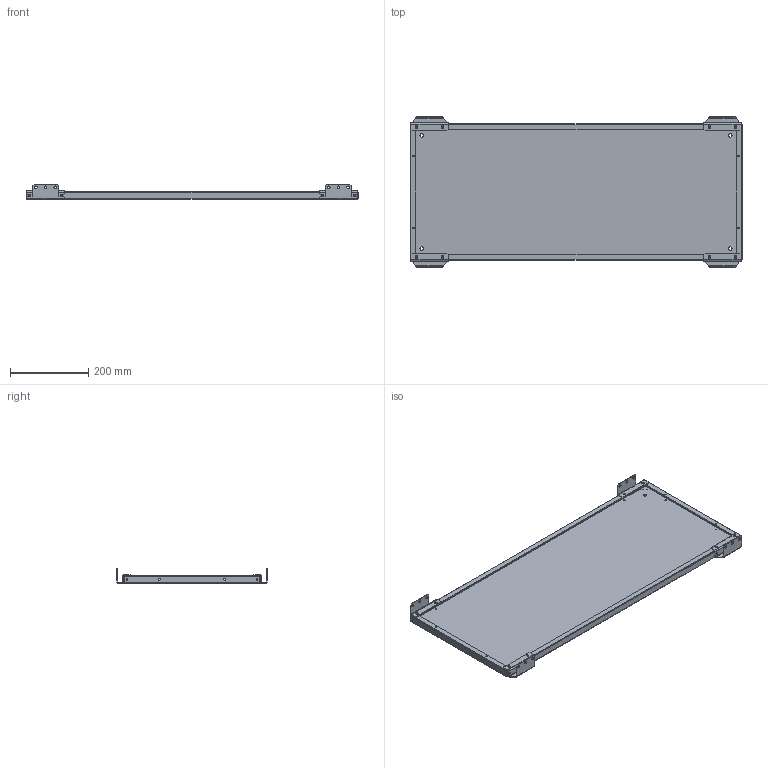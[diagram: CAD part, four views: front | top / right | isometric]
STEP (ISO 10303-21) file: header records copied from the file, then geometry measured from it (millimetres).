
FILE_DESCRIPTION (( 'STEP AP203' ), '1' );
FILE_NAME ('MP 85.35 M Ïàíåëü ìîíòàæíàÿ ñåêöèîííàÿ (ãîðèçîíòàëüíîå êðåïëåíèå).STEP', '2021-04-06T07:12:43', ( '' ), ( '' ), 'SwSTEP 2.0', 'SolidWorks 2018', '' );
FILE_SCHEMA (( 'CONFIG_CONTROL_DESIGN' ));
Length unit declared in the file: millimetre
Products named in the file (1): MP 85.35 M Ïàíåëü ìîíòàæíàÿ ñåêöèîííàÿ (ãîðèçîíòàëüíîå êðåïëåíèå)
Bounding box: 850 x 385 x 37.75 mm (x, y, z)
Volume: 788958.5 mm3; surface area: 798660.8 mm2
Topology: 5 solids, 5 shells, 388 faces, 1016 edges, 632 vertices
Faces by surface type: cylinder 196, plane 168, bspline 16, sphere 8
Entity records: 12713 total; most frequent: CARTESIAN_POINT 2749, DIRECTION 2050, ORIENTED_EDGE 2016, EDGE_CURVE 1008, AXIS2_PLACEMENT_3D 733, VERTEX_POINT 632, LINE 584, VECTOR 584
